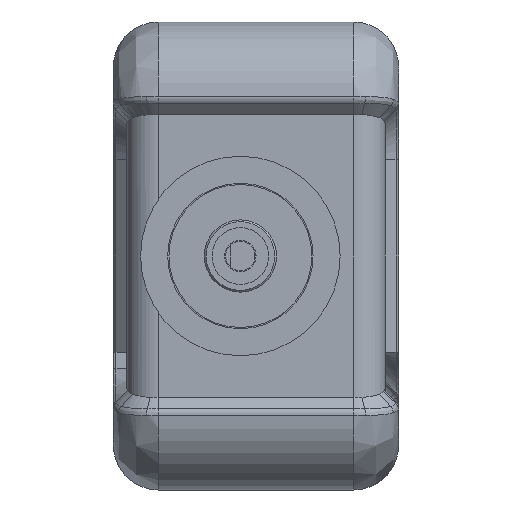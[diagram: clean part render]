
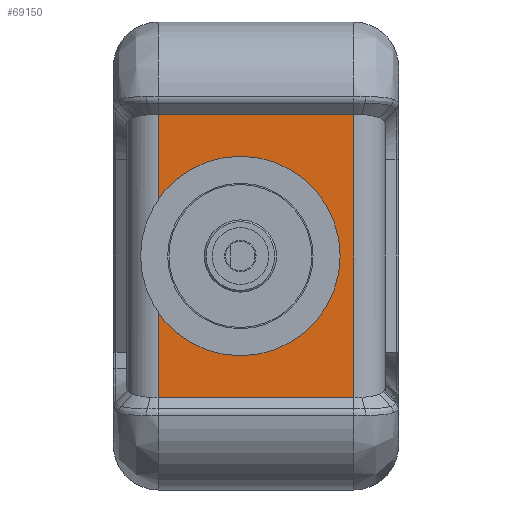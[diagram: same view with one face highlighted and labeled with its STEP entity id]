
A CAD part, left-side view. The second image highlights one B-rep face of the part: STEP entity #69150.
In plain terms, the highlighted planar face has unit normal (-1, 0, 0).
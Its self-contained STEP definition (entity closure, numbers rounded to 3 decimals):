
#50268=DIRECTION('',(0.,0.,1.));
#50269=VECTOR('',#50268,31.417);
#50270=CARTESIAN_POINT('',(-56.246,10.85,
-15.708));
#50271=LINE('',#50270,#50269);
#50353=DIRECTION('',(0.,-1.,0.));
#50354=VECTOR('',#50353,21.7);
#50355=CARTESIAN_POINT('',(-56.246,10.85,
15.708));
#50356=LINE('',#50355,#50354);
#50453=DIRECTION('',(0.,0.,-1.));
#50454=VECTOR('',#50453,31.417);
#50455=CARTESIAN_POINT('',(-56.246,-10.85,
15.708));
#50456=LINE('',#50455,#50454);
#50545=DIRECTION('',(0.,1.,0.));
#50546=VECTOR('',#50545,21.7);
#50547=CARTESIAN_POINT('',(-56.246,-10.85,
-15.708));
#50548=LINE('',#50547,#50546);
#51188=CARTESIAN_POINT('',(-56.246,-0.75,0.));
#51189=DIRECTION('',(1.,0.,0.));
#51190=DIRECTION('',(0.,0.,-1.));
#51191=AXIS2_PLACEMENT_3D('',#51188,#51189,#51190);
#51193=CARTESIAN_POINT('',(-56.246,-0.75,0.));
#51194=DIRECTION('',(1.,0.,0.));
#51195=DIRECTION('',(0.,0.,1.));
#51196=AXIS2_PLACEMENT_3D('',#51193,#51194,#51195);
#54304=CARTESIAN_POINT('',(-56.246,-0.75,-9.));
#54306=VERTEX_POINT('',#54304);
#54308=CARTESIAN_POINT('',(-56.246,-0.75,9.));
#54309=VERTEX_POINT('',#54308);
#55499=CARTESIAN_POINT('',(-56.246,10.85,15.708));
#55500=VERTEX_POINT('',#55499);
#55502=CARTESIAN_POINT('',(-56.246,-10.85,
15.708));
#55503=VERTEX_POINT('',#55502);
#55523=CARTESIAN_POINT('',(-56.246,-10.85,-15.708));
#55525=VERTEX_POINT('',#55523);
#55535=CARTESIAN_POINT('',(-56.246,10.85,
-15.708));
#55536=VERTEX_POINT('',#55535);
#69134=CARTESIAN_POINT('',(-56.246,12.85,-23.));
#69135=DIRECTION('',(1.,0.,0.));
#69136=DIRECTION('',(0.,0.,-1.));
#69137=AXIS2_PLACEMENT_3D('',#69134,#69135,#69136);
#69138=PLANE('',#69137);
#69139=ORIENTED_EDGE('',*,*,#66249,.T.);
#69140=ORIENTED_EDGE('',*,*,#66346,.T.);
#69141=ORIENTED_EDGE('',*,*,#66486,.T.);
#69142=ORIENTED_EDGE('',*,*,#66587,.T.);
#69143=EDGE_LOOP('',(#69139,#69140,#69141,#69142));
#69144=FACE_OUTER_BOUND('',#69143,.F.);
#69145=ORIENTED_EDGE('',*,*,#56301,.F.);
#69147=ORIENTED_EDGE('',*,*,#69146,.F.);
#69148=EDGE_LOOP('',(#69145,#69147));
#69149=FACE_BOUND('',#69148,.F.);
#69150=ADVANCED_FACE('',(#69144,#69149),#69138,.F.);
#51192=CIRCLE('',#51191,9.);
#51197=CIRCLE('',#51196,9.);
#56301=EDGE_CURVE('',#54306,#54309,#51192,.T.);
#66249=EDGE_CURVE('',#55536,#55500,#50271,.T.);
#66346=EDGE_CURVE('',#55500,#55503,#50356,.T.);
#66486=EDGE_CURVE('',#55503,#55525,#50456,.T.);
#66587=EDGE_CURVE('',#55525,#55536,#50548,.T.);
#69146=EDGE_CURVE('',#54309,#54306,#51197,.T.);
